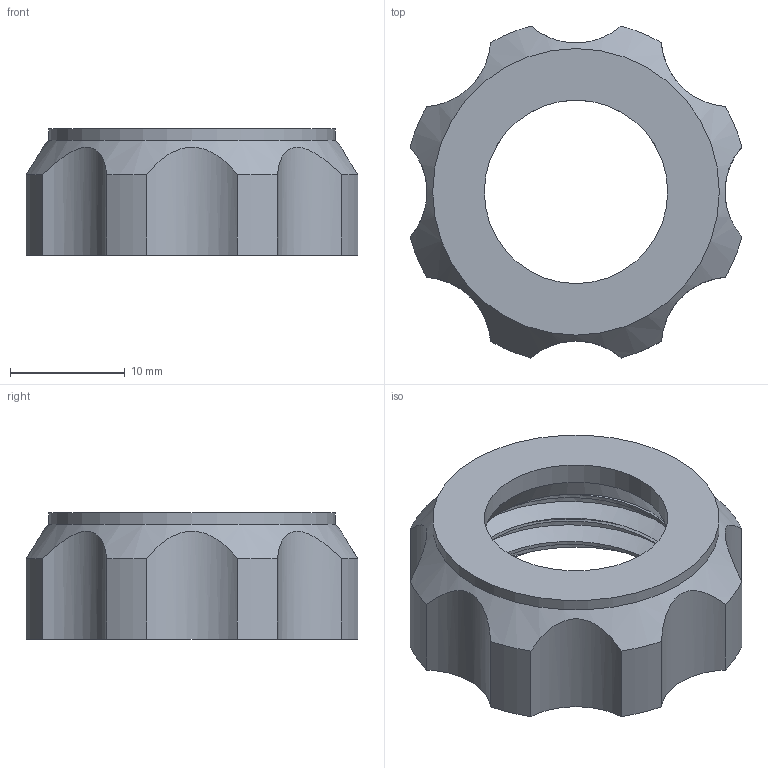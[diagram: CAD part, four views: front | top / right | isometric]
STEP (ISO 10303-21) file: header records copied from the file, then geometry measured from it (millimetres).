
FILE_DESCRIPTION(/* description */ (''),/* implementation_level */ '2;1');
FILE_NAME(/* name */ 'D:/Project/Freelander/Dashcam Mirror Nut.step',/* time_stamp */ '2019-04-18T11:56:59+02:00',/* author */ ('d.ganzinga'),/* organization */ (''),/* preprocessor_version */ 'ST-DEVELOPER v18',/* originating_system */ 'Autodesk Translation Framework v8.2.0.1029',/* authorisation */ '');
FILE_SCHEMA (('AUTOMOTIVE_DESIGN { 1 0 10303 214 3 1 1 }'));
Length unit declared in the file: millimetre
Products named in the file (1): Dashcam Mirror Nut
Bounding box: 28.95 x 28.95 x 11 mm (x, y, z)
Volume: 3660 mm3; surface area: 2807.5 mm2
Topology: 1 solids, 1 shells, 33 faces, 88 edges, 58 vertices
Faces by surface type: cylinder 26, plane 3, cone 2, bspline 2
Full cylindrical faces by diameter (mm): 16 x1, 19.519 x3, 22.293 x2, 25 x1
Entity records: 2317 total; most frequent: CARTESIAN_POINT 1479, ORIENTED_EDGE 176, DIRECTION 160, EDGE_CURVE 88, AXIS2_PLACEMENT_3D 67, VERTEX_POINT 58, EDGE_LOOP 36, CIRCLE 35
